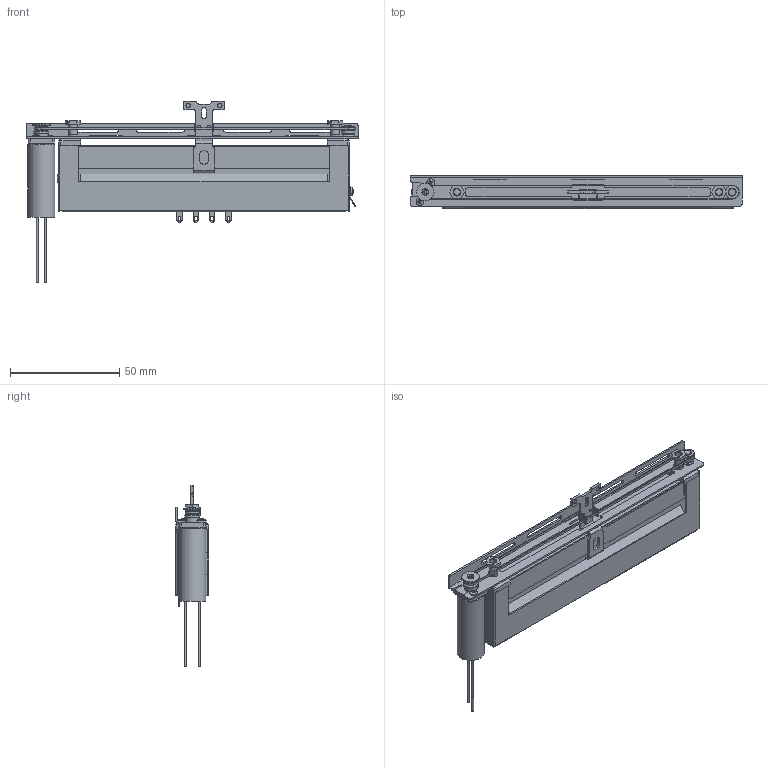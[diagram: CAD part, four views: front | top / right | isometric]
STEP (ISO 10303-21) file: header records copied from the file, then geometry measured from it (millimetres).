
FILE_DESCRIPTION(('FreeCAD Model'),'2;1');
FILE_NAME('Open CASCADE Shape Model','2023-06-16T11:52:06',(''),(''), 'Open CASCADE STEP processor 7.6','FreeCAD','Unknown');
FILE_SCHEMA(('AUTOMOTIVE_DESIGN { 1 0 10303 214 1 1 1 1 }'));
Length unit declared in the file: millimetre
Products named in the file (1): MF-9101-Bxx-J12
Bounding box: 152 x 15.2 x 83.2 mm (x, y, z)
Volume: 56404.3 mm3; surface area: 34692.5 mm2
Topology: 1 solids, 11 shells, 949 faces, 2417 edges, 1517 vertices
Faces by surface type: plane 627, cylinder 225, cone 59, bspline 19, torus 9, sphere 5, revolution 5
Full cylindrical faces by diameter (mm): 0.9 x2, 1.1 x2, 1.2 x4, 1.25 x2, 1.46 x1, 1.5 x4, 1.6 x2, 2 x13, 2.2 x8, 2.6 x3, 3 x8, 3.03 x1, 3.2 x2, 3.5 x3, 3.6 x2, 3.7 x1, 4 x13, 4.2 x1, 4.5 x2, 5 x2, 5.38 x1, 5.6 x1, 6 x3, 7 x1, 8 x1, 12 x1, 12.5 x1
Entity records: 64392 total; most frequent: CARTESIAN_POINT 13715, DIRECTION 8409, ORIENTED_EDGE 4826, PCURVE 4820, DEFINITIONAL_REPRESENTATION 4820, LINE 4674, VECTOR 4674, EDGE_CURVE 2410
